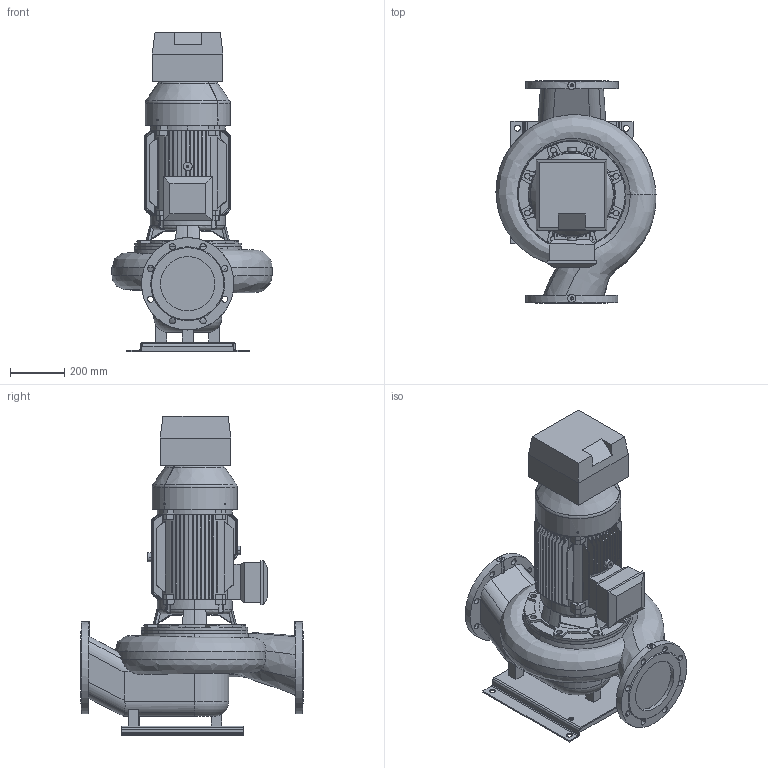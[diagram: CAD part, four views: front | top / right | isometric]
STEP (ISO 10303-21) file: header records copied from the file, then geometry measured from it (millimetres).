
FILE_DESCRIPTION(('STEP AP214'),'1');
FILE_NAME('export.stp','2018-08-08T12:36:44',(' '),(' '),'Spatial InterOp 3D',' ',' ');
FILE_SCHEMA(('AUTOMOTIVE_DESIGN { 1 0 10303 214 1 1 1 1 }'));
Length unit declared in the file: millimetre
Products named in the file (12): W_AL12024NC150KP; V_TLL100SAL1202; V_PPAL1202; P100464; P100462; P101191; V_MKP166G2F31; R200366; R200574; R200573; R200587; NC_Size2
Assembly tree (12 placements, depth 3):
  W_AL12024NC150KP
    V_TLL100SAL1202
    V_PPAL1202
    P100464
      P100462
      P101191  x2
    V_MKP166G2F31
      R200366
      R200574
      R200573
      R200587
    NC_Size2
Bounding box: 589.11 x 820.22 x 1175.5 mm (x, y, z)
Volume: 82738176 mm3; surface area: 5119704.9 mm2
Topology: 10 solids, 10 shells, 1912 faces, 5463 edges, 3553 vertices
Faces by surface type: plane 1269, cylinder 372, cone 186, torus 46, bspline 39
Entity records: 99677 total; most frequent: CARTESIAN_POINT 19059, ORIENTED_EDGE 10742, DIRECTION 9548, EDGE_CURVE 5371, STYLED_ITEM 5066, PRESENTATION_STYLE_ASSIGNMENT 5066, COLOUR_RGB 5066, LINE 3538
